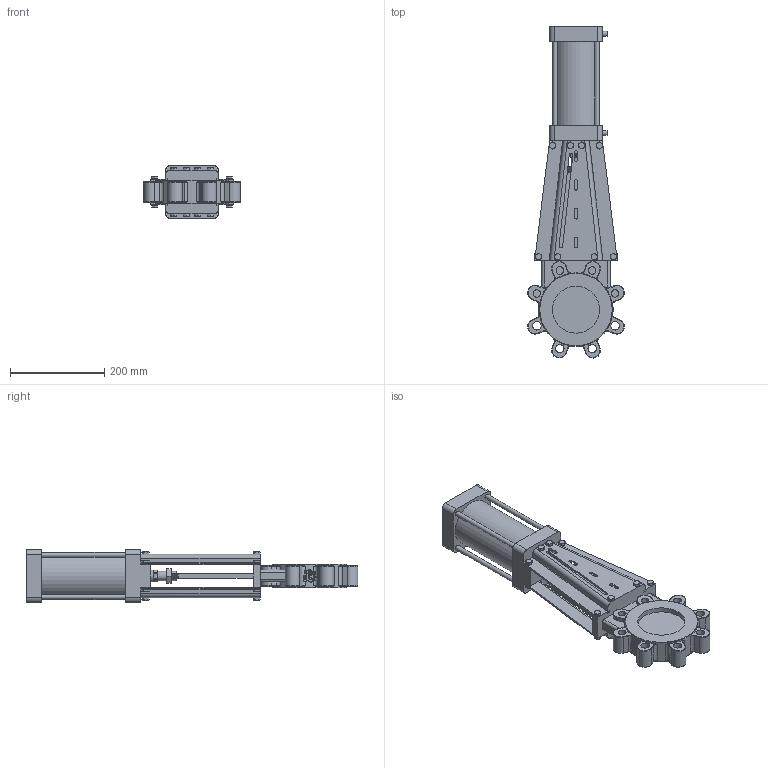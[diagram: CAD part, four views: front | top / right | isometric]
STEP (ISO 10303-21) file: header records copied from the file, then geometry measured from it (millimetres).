
FILE_DESCRIPTION(('STEP AP242'), '1');
FILE_NAME('GVKR1331M-1W-Fb-2P Çàäâèæêà øèáåðíàÿ ñ âûäâèæíûì øòîêîì DN.ru Äó100 Ðó16', '2026-05-25T20:24:28', ('R2D2'), (''), 'C3D Converter', 'C3D Toolkit', '');
FILE_SCHEMA(('AP242_MANAGED_MODEL_BASED_3D_ENGINEERING_MIM_LF { 1 0 10303 442 1 1 4 }'));
Length unit declared in the file: millimetre
Products named in the file (1): GVKR1331M-1W-Fb-2P
Bounding box: 205.66 x 705.83 x 112 mm (x, y, z)
Volume: 4307931.2 mm3; surface area: 499016.7 mm2
Topology: 1 solids, 1 shells, 932 faces, 2357 edges, 1472 vertices
Faces by surface type: plane 467, cylinder 184, extrusion 135, cone 96, torus 50
Full cylindrical faces by diameter (mm): 10 x6, 13 x16, 16 x8, 18 x4, 19.8 x2, 20 x1, 25 x1, 100 x3, 156 x1
Entity records: 49123 total; most frequent: CARTESIAN_POINT 20083, ORIENTED_EDGE 4624, DIRECTION 4067, EDGE_CURVE 2312, VERTEX_POINT 1472, AXIS2_PLACEMENT_3D 1422, VECTOR 1223, LINE 1088
